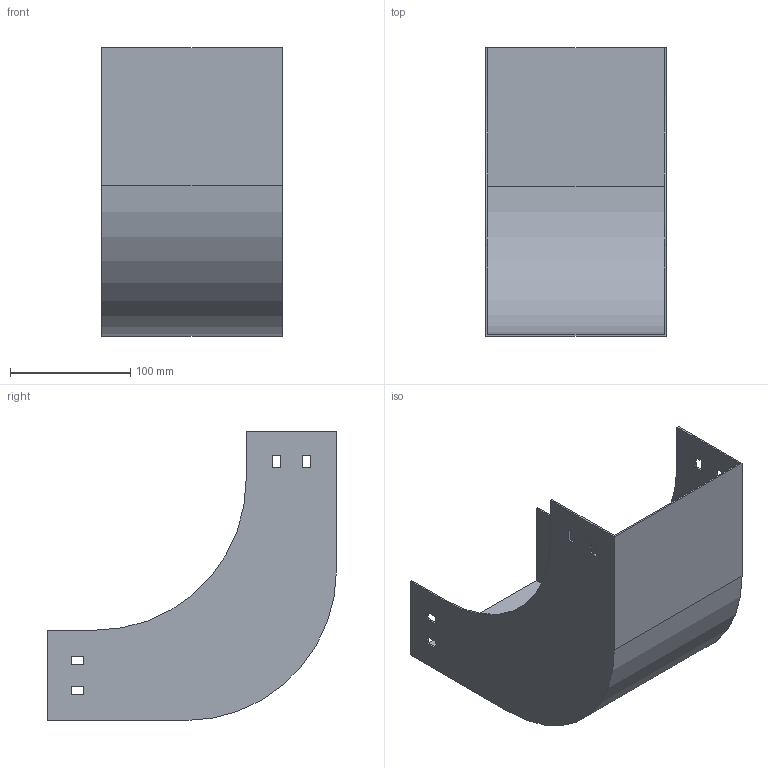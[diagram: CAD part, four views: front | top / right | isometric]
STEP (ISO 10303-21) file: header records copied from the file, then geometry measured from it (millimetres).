
FILE_DESCRIPTION (( 'STEP AP214' ), '1' );
FILE_NAME ('S9_157.step', '2025-07-16T09:27:53', ( '' ), ( '' ), 'SwSTEP 2.0', 'SolidWorks 2023', '' );
FILE_SCHEMA (( 'AUTOMOTIVE_DESIGN' ));
Length unit declared in the file: millimetre
Products named in the file (1): S9_157
Bounding box: 150 x 240 x 240 mm (x, y, z)
Volume: 184035.3 mm3; surface area: 247512 mm2
Topology: 1 solids, 1 shells, 50 faces, 144 edges, 96 vertices
Faces by surface type: plane 46, cylinder 4
Entity records: 1671 total; most frequent: CARTESIAN_POINT 291, ORIENTED_EDGE 288, DIRECTION 254, EDGE_CURVE 144, LINE 136, VECTOR 136, VERTEX_POINT 96, EDGE_LOOP 66
